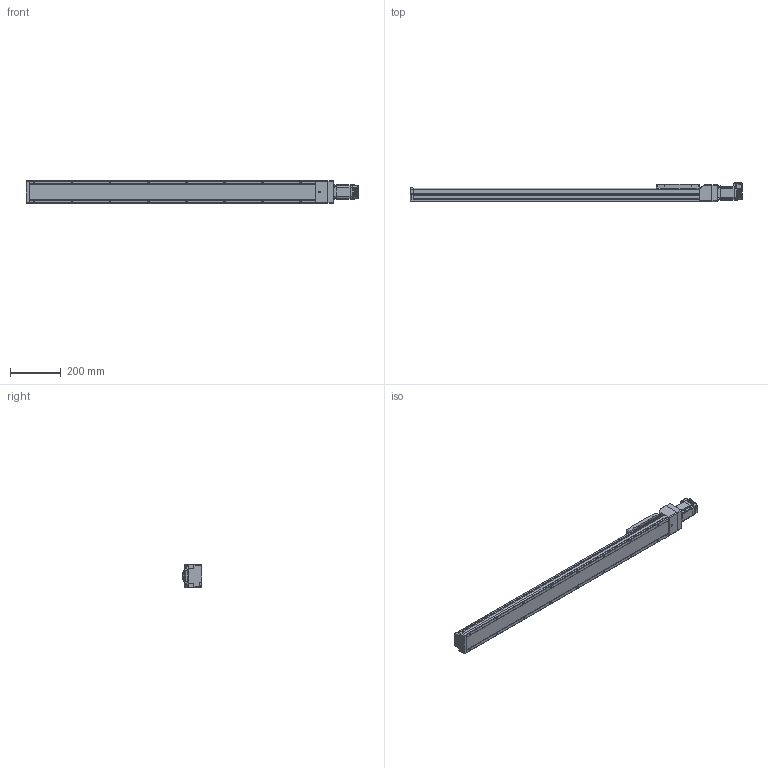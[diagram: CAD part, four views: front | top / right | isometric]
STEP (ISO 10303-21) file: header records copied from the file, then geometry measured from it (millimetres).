
FILE_DESCRIPTION (( 'STEP AP214' ), '1' );
FILE_NAME ('LEFS3(+)-40NM1仩-950-23L.STEP', '2023-06-02T05:21:23', ( '' ), ( '' ), 'SwSTEP 2.0', 'SolidWorks 2019', '' );
FILE_SCHEMA (( 'AUTOMOTIVE_DESIGN' ));
Length unit declared in the file: millimetre
Products named in the file (5): CM3(+)-23L50A_4-M4; LEFS3(+)-40NM1_TABLE; LEFS3(+)-40NM1?_BODY_950; LEFS3(+)-40NM1_Motor Flange; LEFS3(+)-40NM1仩-950-23L
Assembly tree (4 placements, depth 2):
  LEFS3(+)-40NM1仩-950-23L
    LEFS3(+)-40NM1?_BODY_950
    LEFS3(+)-40NM1_TABLE
    LEFS3(+)-40NM1_Motor Flange
    CM3(+)-23L50A_4-M4
Bounding box: 1307.6 x 76.75 x 90 mm (x, y, z)
Volume: 5453528.8 mm3; surface area: 468878.4 mm2
Topology: 5 solids, 14 shells, 1666 faces, 4329 edges, 2680 vertices
Faces by surface type: plane 764, cylinder 531, bspline 133, cone 117, torus 74, sphere 47
Entity records: 56517 total; most frequent: CARTESIAN_POINT 14081, ORIENTED_EDGE 8508, DIRECTION 7950, EDGE_CURVE 4254, AXIS2_PLACEMENT_3D 2712, VERTEX_POINT 2680, VECTOR 2526, LINE 2526
